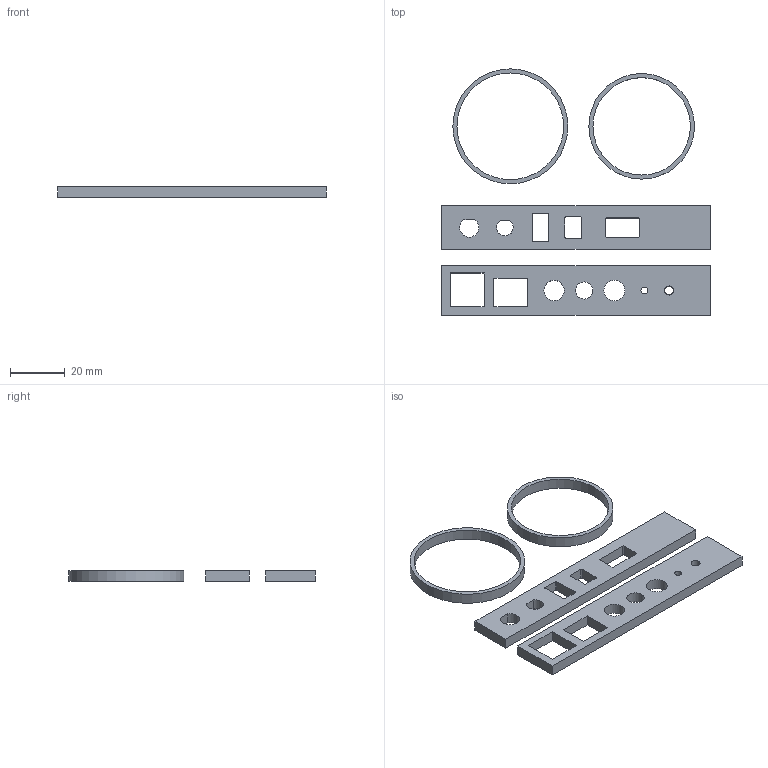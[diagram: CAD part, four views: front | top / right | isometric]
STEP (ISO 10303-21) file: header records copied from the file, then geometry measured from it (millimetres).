
FILE_DESCRIPTION(('Open CASCADE Model'),'2;1');
FILE_NAME('Open CASCADE Shape Model','2026-11-11T07:41:05',('Author'),( 'Open CASCADE'),'Open CASCADE STEP processor 8.0','build123d', 'Unknown');
FILE_SCHEMA(('AUTOMOTIVE_DESIGN { 1 0 10303 214 1 1 1 1 }'));
Length unit declared in the file: millimetre
Products named in the file (5): COMPOUND
Assembly tree (4 placements, depth 2):
  COMPOUND
    COMPOUND
    COMPOUND
    COMPOUND
    COMPOUND
Bounding box: 98 x 90 x 4 mm (x, y, z)
Volume: 12081.2 mm3; surface area: 11104.5 mm2
Topology: 4 solids, 4 shells, 61 faces, 159 edges, 106 vertices
Faces by surface type: plane 38, cylinder 23
Full cylindrical faces by diameter (mm): 2.5 x1, 3.3 x1, 6.3 x1, 7.4 x1, 7.6 x1, 35.6 x1, 38.6 x1, 39 x1, 42 x1
Entity records: 4054 total; most frequent: CARTESIAN_POINT 889, DIRECTION 535, ORIENTED_EDGE 318, PCURVE 318, DEFINITIONAL_REPRESENTATION 318, LINE 289, VECTOR 289, EDGE_CURVE 159
